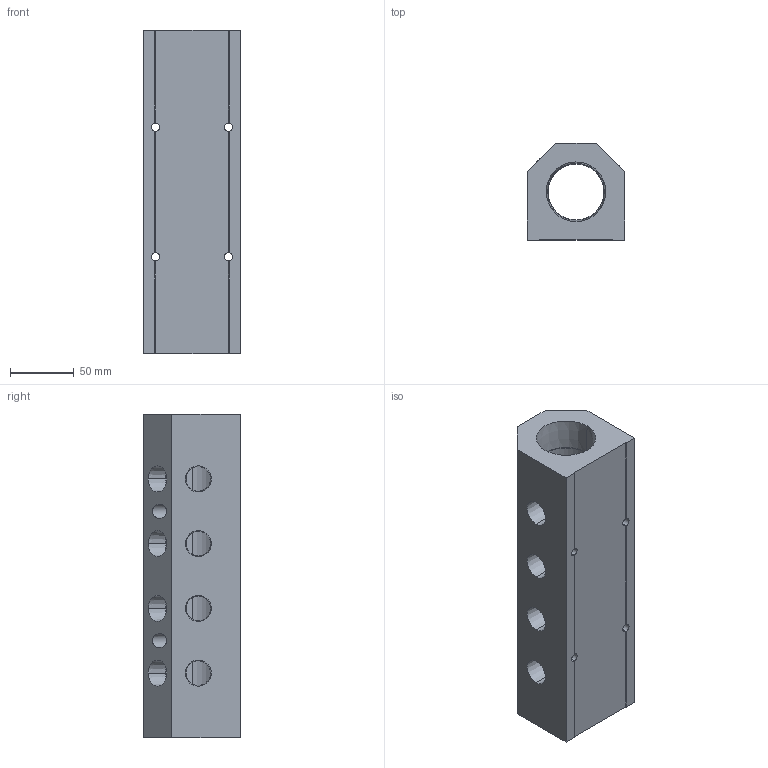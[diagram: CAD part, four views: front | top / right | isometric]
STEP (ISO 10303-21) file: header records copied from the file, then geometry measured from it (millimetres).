
FILE_DESCRIPTION (( 'STEP AP214' ), '1' );
FILE_NAME ('ALM4AB-N8N24-254R.step', '2022-02-07T09:23:16', ( '' ), ( '' ), 'SwSTEP 2.0', 'SolidWorks 2020', '' );
FILE_SCHEMA (( 'AUTOMOTIVE_DESIGN' ));
Length unit declared in the file: millimetre
Products named in the file (1): ALM4AB-N8N24-254R
Bounding box: 76.2 x 76.2 x 254 mm (x, y, z)
Volume: 896748.4 mm3; surface area: 122760 mm2
Topology: 1 solids, 1 shells, 327 faces, 874 edges, 580 vertices
Faces by surface type: plane 233, bspline 56, cone 20, cylinder 18
Entity records: 17438 total; most frequent: CARTESIAN_POINT 6570, ORIENTED_EDGE 1748, DIRECTION 1318, EDGE_CURVE 874, VECTOR 670, LINE 670, VERTEX_POINT 580, EDGE_LOOP 384
